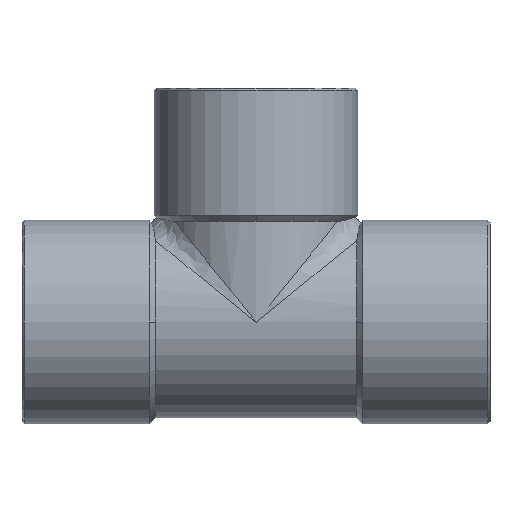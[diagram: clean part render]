
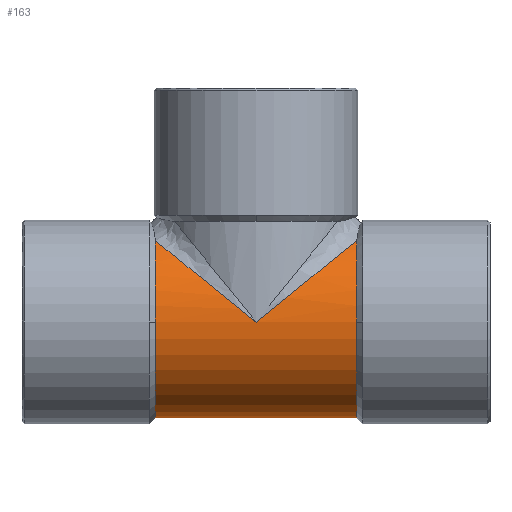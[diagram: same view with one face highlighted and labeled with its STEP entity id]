
A CAD part, top view. The second image highlights one B-rep face of the part: STEP entity #163.
In plain terms, the highlighted cylindrical face has radius 21.05 mm (diameter 42.1 mm), a partial arc.
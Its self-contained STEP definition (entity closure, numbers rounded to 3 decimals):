
#77=CARTESIAN_POINT('',(22.15,0.,21.05));
#78=VERTEX_POINT('',#77);
#85=CARTESIAN_POINT('',(22.15,-21.05,0.));
#86=VERTEX_POINT('',#85);
#87=CARTESIAN_POINT('',(22.15,0.,0.0));
#88=DIRECTION('',(-1.0,0.0,0.0));
#89=DIRECTION('',(0.0,1.0,0.0));
#90=AXIS2_PLACEMENT_3D('',#87,#88,#89);
#91=CIRCLE('',#90,21.05);
#92=EDGE_CURVE('',#86,#78,#91,.T.);
#104=CARTESIAN_POINT('',(0.0,0.,0.0));
#105=DIRECTION('',(1.0,0.,0.0));
#106=DIRECTION('',(0.0,1.0,0.0));
#107=AXIS2_PLACEMENT_3D('',#104,#105,#106);
#108=CYLINDRICAL_SURFACE('',#107,21.05);
#109=CARTESIAN_POINT('',(-22.15,-21.05,0.));
#110=VERTEX_POINT('',#109);
#111=CARTESIAN_POINT('',(22.15,-21.05,0.));
#112=DIRECTION('',(-1.0,0.0,0.0));
#113=VECTOR('',#112,44.3);
#114=LINE('',#111,#113);
#115=EDGE_CURVE('',#86,#110,#114,.T.);
#116=ORIENTED_EDGE('',*,*,#115,.F.);
#117=ORIENTED_EDGE('',*,*,#92,.T.);
#118=CARTESIAN_POINT('',(22.15,17.899,11.079));
#119=VERTEX_POINT('',#118);
#120=CARTESIAN_POINT('',(22.15,0.,0.0));
#121=DIRECTION('',(-1.0,0.0,0.0));
#122=DIRECTION('',(0.0,1.0,0.0));
#123=AXIS2_PLACEMENT_3D('',#120,#121,#122);
#124=CIRCLE('',#123,21.05);
#125=EDGE_CURVE('',#78,#119,#124,.T.);
#126=ORIENTED_EDGE('',*,*,#125,.T.);
#127=CARTESIAN_POINT('',(0.,0.,21.05));
#128=VERTEX_POINT('',#127);
#129=CARTESIAN_POINT('',(0.0,0.,0.0));
#130=DIRECTION('',(-0.629,0.778,0.));
#131=DIRECTION('',(0.778,0.629,0.0));
#132=AXIS2_PLACEMENT_3D('',#129,#130,#131);
#133=ELLIPSE('',#132,33.492,21.05);
#134=EDGE_CURVE('',#128,#119,#133,.T.);
#135=ORIENTED_EDGE('',*,*,#134,.F.);
#136=CARTESIAN_POINT('',(-22.15,17.899,11.079));
#137=VERTEX_POINT('',#136);
#138=CARTESIAN_POINT('',(0.0,0.,0.0));
#139=DIRECTION('',(0.629,0.778,0.));
#140=DIRECTION('',(-0.778,0.629,0.0));
#141=AXIS2_PLACEMENT_3D('',#138,#139,#140);
#142=ELLIPSE('',#141,33.492,21.05);
#143=EDGE_CURVE('',#137,#128,#142,.T.);
#144=ORIENTED_EDGE('',*,*,#143,.F.);
#145=CARTESIAN_POINT('',(-22.15,0.,21.05));
#146=VERTEX_POINT('',#145);
#147=CARTESIAN_POINT('',(-22.15,0.,0.0));
#148=DIRECTION('',(1.0,0.0,0.0));
#149=DIRECTION('',(0.0,1.0,0.0));
#150=AXIS2_PLACEMENT_3D('',#147,#148,#149);
#151=CIRCLE('',#150,21.05);
#152=EDGE_CURVE('',#137,#146,#151,.T.);
#153=ORIENTED_EDGE('',*,*,#152,.T.);
#154=CARTESIAN_POINT('',(-22.15,0.,0.0));
#155=DIRECTION('',(1.0,0.0,0.0));
#156=DIRECTION('',(0.0,1.0,0.0));
#157=AXIS2_PLACEMENT_3D('',#154,#155,#156);
#158=CIRCLE('',#157,21.05);
#159=EDGE_CURVE('',#146,#110,#158,.T.);
#160=ORIENTED_EDGE('',*,*,#159,.T.);
#161=EDGE_LOOP('',(#116,#117,#126,#135,#144,#153,#160));
#162=FACE_OUTER_BOUND('',#161,.T.);
#163=ADVANCED_FACE('',(#162),#108,.T.);
